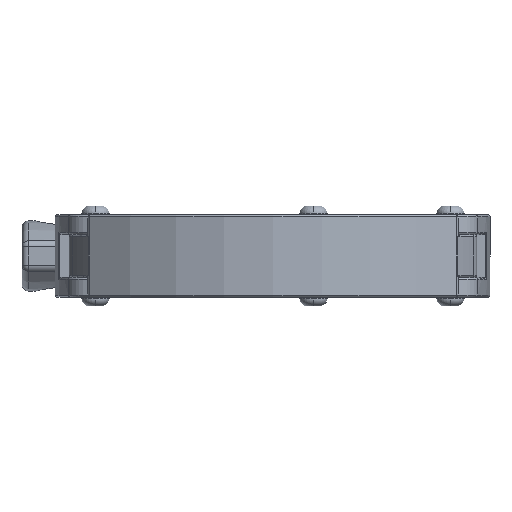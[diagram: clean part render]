
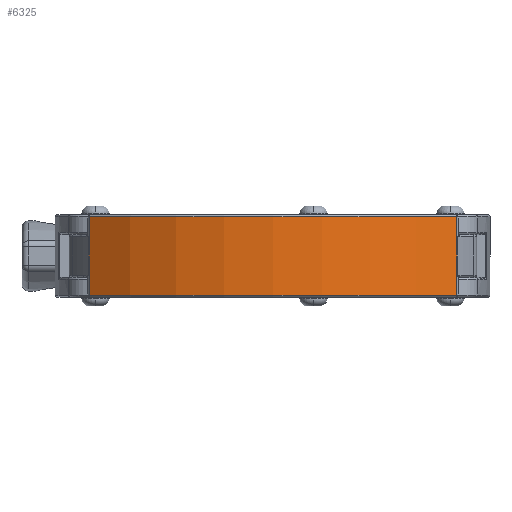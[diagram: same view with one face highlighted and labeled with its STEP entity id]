
A CAD part, left-side view. The second image highlights one B-rep face of the part: STEP entity #6325.
In plain terms, the highlighted cylindrical face has radius 67.999 mm (diameter 135.998 mm), a partial arc.
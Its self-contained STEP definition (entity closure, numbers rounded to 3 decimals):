
#38 = CARTESIAN_POINT ( 'NONE',  ( -32.758, -41.963, -8.9 ) ) ;
#290 = DIRECTION ( 'NONE',  ( 1., 0., 0. ) ) ;
#372 = DIRECTION ( 'NONE',  ( 0., 0., 1. ) ) ;
#664 = CARTESIAN_POINT ( 'NONE',  ( 20.749, 0., -9.4 ) ) ;
#879 = ORIENTED_EDGE ( 'NONE', *, *, #14192, .T. ) ;
#990 = DIRECTION ( 'NONE',  ( 1., 0., 0. ) ) ;
#1826 = EDGE_LOOP ( 'NONE', ( #5346, #879, #18652, #17495 ) ) ;
#4389 = EDGE_CURVE ( 'NONE', #8417, #7474, #6889, .T. ) ;
#5000 = LINE ( 'NONE', #5038, #12794 ) ;
#5038 = CARTESIAN_POINT ( 'NONE',  ( -32.758, 41.963, -9.4 ) ) ;
#5346 = ORIENTED_EDGE ( 'NONE', *, *, #14013, .F. ) ;
#5470 = CARTESIAN_POINT ( 'NONE',  ( -32.758, 41.963, -8.9 ) ) ;
#5656 = VECTOR ( 'NONE', #372, 1000. ) ;
#6069 = DIRECTION ( 'NONE',  ( 0., 0., -1. ) ) ;
#6325 = ADVANCED_FACE ( 'NONE', ( #17212 ), #19083, .T. ) ;
#6845 = AXIS2_PLACEMENT_3D ( 'NONE', #14743, #15276, #290 ) ;
#6889 = LINE ( 'NONE', #8713, #5656 ) ;
#7474 = VERTEX_POINT ( 'NONE', #16050 ) ;
#7843 = DIRECTION ( 'NONE',  ( 0., 0., 1. ) ) ;
#8417 = VERTEX_POINT ( 'NONE', #38 ) ;
#8713 = CARTESIAN_POINT ( 'NONE',  ( -32.758, -41.963, -9.4 ) ) ;
#9352 = DIRECTION ( 'NONE',  ( 0., 0., 1. ) ) ;
#10118 = CARTESIAN_POINT ( 'NONE',  ( 20.749, 0., 8.9 ) ) ;
#10464 = DIRECTION ( 'NONE',  ( 1., 0., 0. ) ) ;
#10561 = EDGE_CURVE ( 'NONE', #7474, #15705, #13269, .T. ) ;
#11210 = CARTESIAN_POINT ( 'NONE',  ( -32.758, 41.963, 8.9 ) ) ;
#11432 = VERTEX_POINT ( 'NONE', #5470 ) ;
#12794 = VECTOR ( 'NONE', #7843, 1000. ) ;
#13269 = CIRCLE ( 'NONE', #15004, 67.999 ) ;
#14013 = EDGE_CURVE ( 'NONE', #11432, #15705, #5000, .T. ) ;
#14192 = EDGE_CURVE ( 'NONE', #11432, #8417, #14389, .T. ) ;
#14389 = CIRCLE ( 'NONE', #6845, 67.999 ) ;
#14743 = CARTESIAN_POINT ( 'NONE',  ( 20.749, 0., -8.9 ) ) ;
#15004 = AXIS2_PLACEMENT_3D ( 'NONE', #10118, #6069, #10464 ) ;
#15276 = DIRECTION ( 'NONE',  ( 0., 0., 1. ) ) ;
#15705 = VERTEX_POINT ( 'NONE', #11210 ) ;
#16050 = CARTESIAN_POINT ( 'NONE',  ( -32.758, -41.963, 8.9 ) ) ;
#17212 = FACE_OUTER_BOUND ( 'NONE', #1826, .T. ) ;
#17495 = ORIENTED_EDGE ( 'NONE', *, *, #10561, .T. ) ;
#17833 = AXIS2_PLACEMENT_3D ( 'NONE', #664, #9352, #990 ) ;
#18652 = ORIENTED_EDGE ( 'NONE', *, *, #4389, .T. ) ;
#19083 = CYLINDRICAL_SURFACE ( 'NONE', #17833, 67.999 ) ;
